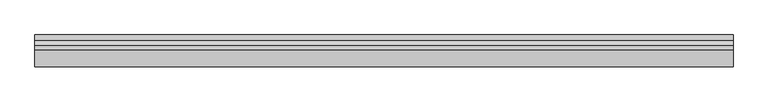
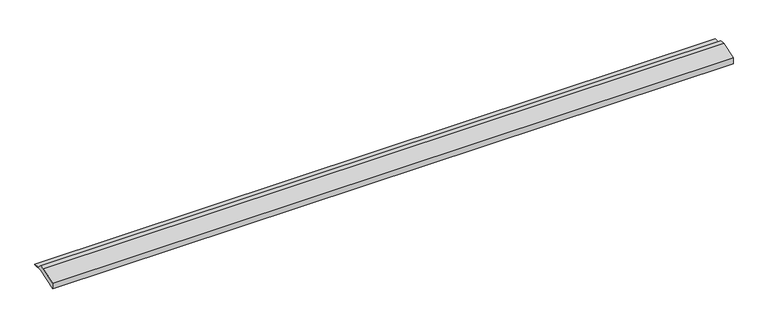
"""IFC4 building model written with IfcOpenShell, lengths in millimetres: proxy geometry, Roof_Vent-Metal_Era-Hi_Perf_Ridge_Vent_Sloped_Roof_Meets_Flat_Roof : Roof_Vent-Metal_Era-Hi_Perf_Ridge_Vent_Sloped_Roof_Meets_Flat_Roof."""

from ifc_helpers import new_model, si_unit, frame, origin, place, context, project, spatial, polyline, outline, extrude, source, transform, mapped, element, save


def specialty_equipment_45a5e4ec(model_context):
    return source(origin(), model_context, "Body", "SweptSolid", [
        extrude(outline(polyline([(-25.4, 32.8855184), (0.0, 32.8855184), (0.0, 31.2980184), (-44.445229, 31.2980184), (-138.3663245, 0.0), (-138.3663245, 27.5146861), (-65.082729, 51.9355184), (-44.45, 51.9355184), (-25.4, 32.8855184)])), frame((0.0, 0.0, 0.0), z_axis=(1.0, 0.0, 0.0), x_axis=(0.0, 1.0, 0.0)), (0.0, 0.0, 1.0), 3048.0),
    ])


if __name__ == "__main__":
    model = new_model("IFC4")
    model_context = context("Model", 3, world=origin())
    ifc_project = project(units=[si_unit("LENGTHUNIT", "METRE", prefix="MILLI")], contexts=[model_context])
    site = spatial("IfcSite", under=ifc_project)
    building = spatial("IfcBuilding", under=site)
    placement = place(None, origin())
    specialty_equipment_shape = specialty_equipment_45a5e4ec(model_context)
    element("IfcBuildingElementProxy", 1, Name="Roof_Vent-Metal_Era-Hi_Perf_Ridge_Vent_Sloped_Roof_Meets_Flat_Roof : Roof_Vent-Metal_Era-Hi_Perf_Ridge_Vent_Sloped_Roof_Meets_Flat_Roof", ObjectType="Roof_Vent-Metal_Era-Hi_Perf_Ridge_Vent_Sloped_Roof_Meets_Flat_Roof : Roof_Vent-Metal_Era-Hi_Perf_Ridge_Vent_Sloped_Roof_Meets_Flat_Roof", at=placement, inside=building, context=model_context, shape_type="MappedRepresentation", body=[
        mapped(specialty_equipment_shape, transform((0.0, 0.0, 0.0), x_axis=(1.0, 0.0, 0.0), y_axis=(0.0, 1.0, 0.0), z_axis=(0.0, 0.0, 1.0))),
    ])
    save(model, "model.ifc")
